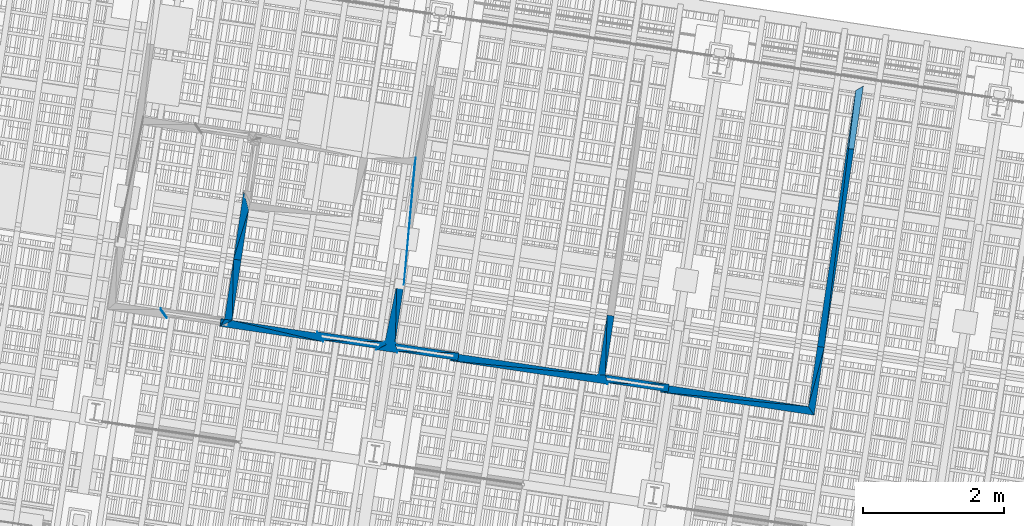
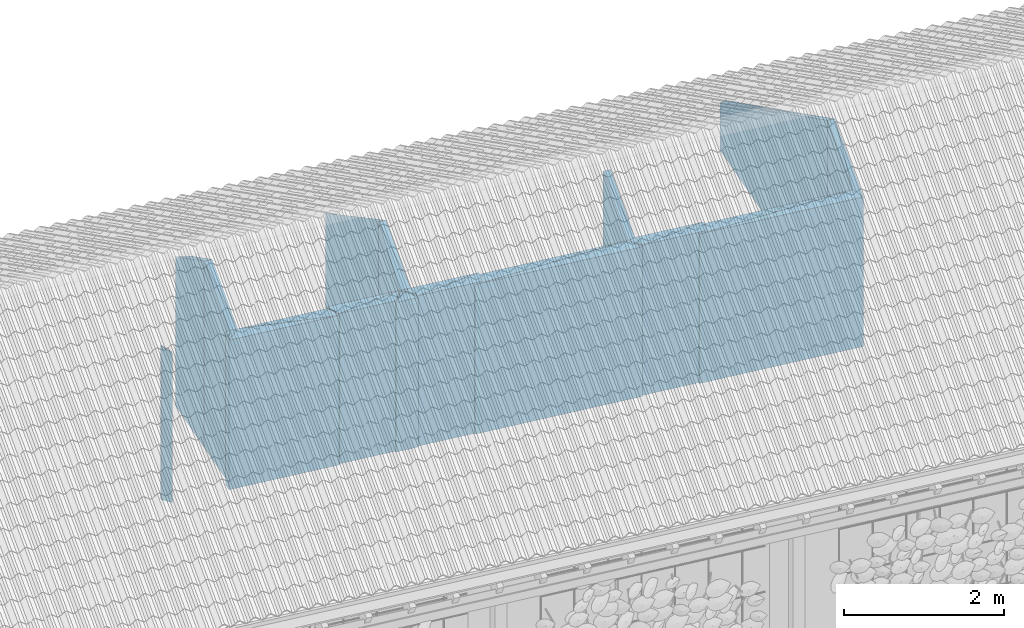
# One storey, part 124 of 131: 40 walls.
"""IFC4 building model written with IfcOpenShell, lengths in metres."""

import ifcopenshell
import ifcopenshell.guid

model = None  # the IFC model being written
_history = None  # IfcOwnerHistory: only IFC2X3 demands one
_inside = {}  # id of a spatial element -> (the spatial element, [elements in it])
_under = {}  # id of a project, library or spatial element -> (it, [spatial elements below it])
_declared = {}  # id of a project -> (the project, [libraries it declares])
_typed = {}  # id of a type object -> (the type object, [elements of that type])
_made_of = {}  # id of a material, layer set ... -> (it, [elements and type objects made of it])


def new_model(schema):
    """Start an empty IFC model of exactly this schema.

    Asked for "IFC4X3", IfcOpenShell would pick the latest addendum, in which some entities
    have other attributes; the version numbers below select the first issue.
    IFC2X3 requires an IfcOwnerHistory on every rooted entity: one is made here for all.
    """
    global model, _history
    if schema == "IFC4X3":
        model = ifcopenshell.file(schema_version=(4, 3, 0, 0))
    else:
        model = ifcopenshell.file(schema=schema)
    _inside.clear()
    _under.clear()
    _declared.clear()
    _typed.clear()
    _made_of.clear()
    _history = None
    if model.schema == "IFC2X3":
        org = make("IfcOrganization", Name="unknown")
        user = make(
            "IfcPersonAndOrganization",
            ThePerson=make("IfcPerson", FamilyName="unknown"),
            TheOrganization=org,
        )
        app = make(
            "IfcApplication",
            ApplicationDeveloper=org,
            Version="unknown",
            ApplicationFullName="unknown",
            ApplicationIdentifier="unknown",
        )
        _history = make(
            "IfcOwnerHistory",
            OwningUser=user,
            OwningApplication=app,
            ChangeAction="ADDED",
            CreationDate=0,
        )
    return model


def make(cls, **values):
    """One entity of the class cls with the attributes given. An attribute that is None is left unset."""
    return model.create_entity(
        cls, **{name: value for name, value in values.items() if value is not None}
    )


def rooted(cls, **values):
    """An entity with a GlobalId (a new one), such as an element, a storey or a relation."""
    return make(cls, GlobalId=ifcopenshell.guid.new(), OwnerHistory=_history, **values)


def si_unit(unit_type, name, prefix=None):
    """IfcSIUnit, for example si_unit("LENGTHUNIT", "METRE", prefix="MILLI")."""
    return make("IfcSIUnit", UnitType=unit_type, Prefix=prefix, Name=name)


def assignment(units):
    """IfcUnitAssignment: the units of a project."""
    return None if units is None else make("IfcUnitAssignment", Units=units)


def point(xyz):
    """IfcCartesianPoint."""
    return None if xyz is None else make("IfcCartesianPoint", Coordinates=xyz)


def direction(xyz):
    """IfcDirection."""
    return None if xyz is None else make("IfcDirection", DirectionRatios=xyz)


def frame(location, z_axis=None, x_axis=None):
    """IfcAxis2Placement3D, a coordinate frame: its origin and axes. An axis left out is left unset."""
    return make(
        "IfcAxis2Placement3D",
        Location=point(location),
        Axis=direction(z_axis),
        RefDirection=direction(x_axis),
    )


def origin_with_axes():
    """The frame at (0, 0, 0) with the z axis (0, 0, 1) and the x axis (1, 0, 0) written out."""
    return frame((0.0, 0.0, 0.0), z_axis=(0.0, 0.0, 1.0), x_axis=(1.0, 0.0, 0.0))


def place(relative_to, where):
    """IfcLocalPlacement: puts the frame where relative to a parent placement (None: the world)."""
    return make(
        "IfcLocalPlacement", PlacementRelTo=relative_to, RelativePlacement=where
    )


def context(
    kind, dimensions, precision=None, world=None, true_north=None, identifier=None
):
    """IfcGeometricRepresentationContext, for example the 3D "Model" context."""
    return make(
        "IfcGeometricRepresentationContext",
        ContextIdentifier=identifier,
        ContextType=kind,
        CoordinateSpaceDimension=dimensions,
        Precision=precision,
        WorldCoordinateSystem=world,
        TrueNorth=true_north,
    )


def subcontext(parent, identifier, kind, view, scale=None):
    """IfcGeometricRepresentationSubContext, for example "Body" below "Model"."""
    return make(
        "IfcGeometricRepresentationSubContext",
        ContextIdentifier=identifier,
        ContextType=kind,
        ParentContext=parent,
        TargetScale=scale,
        TargetView=view,
    )


def project(units=None, contexts=None):
    """IfcProject with its units and contexts."""
    return rooted(
        "IfcProject",
        Name="project",
        RepresentationContexts=contexts,
        UnitsInContext=assignment(units),
    )


def spatial(cls, under=None, at=None, **own):
    """A site, building, storey or space (cls), placed at a placement, below another one or the project."""
    s = rooted(cls, ObjectPlacement=at, **own)
    if under is not None:
        _under.setdefault(under.id(), (under, []))[1].append(s)
    return s


def point_list(points):
    """IfcCartesianPointList2D or 3D."""
    cls = (
        "IfcCartesianPointList2D" if len(points[0]) == 2 else "IfcCartesianPointList3D"
    )
    return make(cls, CoordList=points)


def polygons(points, faces, closed=None, point_numbers=None):
    """IfcPolygonalFaceSet: a face is its outer loop, then its inner loops; points numbered from 1."""
    made = []
    for loops in faces:
        if len(loops) == 1:
            made.append(make("IfcIndexedPolygonalFace", CoordIndex=loops[0]))
        else:
            made.append(
                make(
                    "IfcIndexedPolygonalFaceWithVoids",
                    CoordIndex=loops[0],
                    InnerCoordIndices=loops[1:],
                )
            )
    return make(
        "IfcPolygonalFaceSet",
        Coordinates=point_list(points),
        Closed=closed,
        Faces=made,
        PnIndex=point_numbers,
    )


def shape(context_of_items, identifier, shape_type, items):
    """IfcShapeRepresentation: the items that make up one representation, for example the "Body"."""
    return make(
        "IfcShapeRepresentation",
        ContextOfItems=context_of_items,
        RepresentationIdentifier=identifier,
        RepresentationType=shape_type,
        Items=items,
    )


def material(Name=None, Category=None):
    """IfcMaterial."""
    return make("IfcMaterial", Name=Name, Category=Category)


def made_of(thing, what):
    """Note that an element or type object is made of a material, layer set ...; save() writes the relation."""
    if what is not None:
        _made_of.setdefault(what.id(), (what, []))[1].append(thing)
    return thing


def element(
    cls,
    number,
    at=None,
    inside=None,
    cuts=None,
    type_object=None,
    material=None,
    context=None,
    identifier="Body",
    shape_type=None,
    held_by="IfcProductDefinitionShape",
    body=None,
    shapes=None,
    **own,
):
    """One element of the class cls, such as IfcWall. Its Tag is "e" and its number.

    at: its placement. inside: the storey or other place that contains it. cuts: it is an
    opening in that element (IfcRelVoidsElement). A single representation is given by context,
    identifier, shape_type and body (its items); several are given by shapes. held_by: the class
    of the entity that holds the representations. save() writes the other relations.
    """
    e = rooted(cls, Tag="e%d" % number, ObjectPlacement=at, **own)
    if body is not None:
        shapes = [shape(context, identifier, shape_type, body)]
    if shapes is not None:
        e.Representation = make(held_by, Representations=shapes)
    if inside is not None:
        _inside.setdefault(inside.id(), (inside, []))[1].append(e)
    if cuts is not None:
        rooted(
            "IfcRelVoidsElement", RelatingBuildingElement=cuts, RelatedOpeningElement=e
        )
    if type_object is not None:
        _typed.setdefault(type_object.id(), (type_object, []))[1].append(e)
    return made_of(e, material)


def aggregate(whole, parts):
    """IfcRelAggregates: a whole, such as a stair, and the parts it consists of."""
    return rooted("IfcRelAggregates", RelatingObject=whole, RelatedObjects=parts)


def save(model, path):
    """Write the relations noted so far, then the file.

    IfcRelAggregates (storeys below a building ...), IfcRelContainedInSpatialStructure (elements
    in a storey), IfcRelDefinesByType, IfcRelAssociatesMaterial and IfcRelDeclares: one each for
    every whole, place, type object, material and project.
    """
    for whole, parts in _under.values():
        aggregate(whole, parts)
    for where, things in _inside.values():
        rooted(
            "IfcRelContainedInSpatialStructure",
            RelatedElements=things,
            RelatingStructure=where,
        )
    for kind, things in _typed.values():
        rooted("IfcRelDefinesByType", RelatedObjects=things, RelatingType=kind)
    for what, things in _made_of.values():
        rooted("IfcRelAssociatesMaterial", RelatedObjects=things, RelatingMaterial=what)
    for by, libraries in _declared.values():
        rooted("IfcRelDeclares", RelatingContext=by, RelatedDefinitions=libraries)
    model.write(path)


model = new_model("IFC4")

# Units and contexts
model_context = context("Model", 3, precision=1e-05, world=origin_with_axes(), true_north=direction((0.0, 1.0)))
body_context = subcontext(model_context, "Body", "Model", "MODEL_VIEW")
ifc_project = project(units=[si_unit("VOLUMEUNIT", "CUBIC_METRE"), si_unit("LENGTHUNIT", "METRE"), si_unit("AREAUNIT", "SQUARE_METRE")], contexts=[model_context])

# Site, building, storey
site_placement = place(None, origin_with_axes())
site = spatial("IfcSite", under=ifc_project, at=site_placement, Name="Lares · Rua das Mercês · artigo 4771")
building_placement = place(site_placement, frame((15.0, 9.7, 15.8), z_axis=(0.0, 0.0, 1.0), x_axis=(0.989015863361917, -0.147809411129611, 0.0)))
building = spatial("IfcBuilding", under=site, at=building_placement, Name="Casa Sobreposta")
storey_placement = place(building_placement, origin_with_axes())
storey = spatial("IfcBuildingStorey", under=building, at=storey_placement, Name="00 · Habitação e estacionamento", Elevation=15.8)

# Walls
ifc_material = material(Name="OSB", Category="wood")
wall_1_placement = place(storey_placement, origin_with_axes())
element("IfcWall", 1, at=wall_1_placement, inside=storey, material=ifc_material, Name="Divisória · prolongamento até ao forro", context=body_context, shape_type="Tessellation", body=[
    polygons([(8.80999999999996, 1.57999999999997, 3.05), (8.80999999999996, 1.60006813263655, 3.05), (8.70456930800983, 1.68999999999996, 3.05), (8.80999999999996, 1.57999999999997, 5.32917893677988), (8.80999999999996, 1.60006813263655, 5.34076527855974), (8.70456930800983, 1.68999999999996, 5.39268746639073)], [[[3, 2, 1]], [[4, 5, 6]], [[1, 2, 5, 4]], [[2, 3, 6, 5]], [[3, 1, 4, 6]]]),
])
wall_2_placement = place(storey_placement, origin_with_axes())
element("IfcWall", 2, at=wall_2_placement, inside=storey, material=ifc_material, Name="Divisória · prolongamento até ao forro", context=body_context, shape_type="Tessellation", body=[
    polygons([(8.70457262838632, 1.71008556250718, 3.05), (8.70456930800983, 1.68999999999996, 3.05), (8.80999999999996, 1.60006813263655, 3.05), (8.70457262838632, 1.71008556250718, 5.4042838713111), (8.70456930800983, 1.68999999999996, 5.39268746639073), (8.80999999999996, 1.60006813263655, 5.34076527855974)], [[[3, 2, 1]], [[4, 5, 6]], [[1, 2, 5, 4]], [[2, 3, 6, 5]], [[3, 1, 4, 6]]]),
])
wall_3_placement = place(storey_placement, origin_with_axes())
element("IfcWall", 3, at=wall_3_placement, inside=storey, material=ifc_material, Name="Divisória · prolongamento até ao forro", context=body_context, shape_type="Tessellation", body=[
    polygons([(9.61999999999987, 2.55, 3.05), (9.61999999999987, 1.68999999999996, 3.05), (9.72999999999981, 1.68999999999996, 3.05), (9.61999999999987, 2.55, 5.88920869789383), (9.61999999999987, 1.68999999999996, 5.39268746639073), (9.72999999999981, 1.68999999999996, 5.39268746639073)], [[[3, 2, 1]], [[4, 5, 6]], [[1, 2, 5, 4]], [[2, 3, 6, 5]], [[3, 1, 4, 6]]]),
])
wall_4_placement = place(storey_placement, origin_with_axes())
element("IfcWall", 4, at=wall_4_placement, inside=storey, material=ifc_material, Name="Divisória · prolongamento até ao forro", context=body_context, shape_type="Tessellation", body=[
    polygons([(9.61999999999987, 2.55, 3.05), (9.72999999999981, 1.68999999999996, 3.05), (9.72999999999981, 2.55, 3.05), (9.61999999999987, 2.55, 5.88920869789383), (9.72999999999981, 1.68999999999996, 5.39268746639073), (9.72999999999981, 2.55, 5.88920869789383)], [[[3, 2, 1]], [[4, 5, 6]], [[1, 2, 5, 4]], [[2, 3, 6, 5]], [[3, 1, 4, 6]]]),
])
wall_5_placement = place(storey_placement, origin_with_axes())
element("IfcWall", 5, at=wall_5_placement, inside=storey, material=ifc_material, Name="Divisória · prolongamento até ao forro", context=body_context, shape_type="Tessellation", body=[
    polygons([(11.96, 2.55, 3.05), (11.9147422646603, 1.70994155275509, 3.05), (12.06, 1.70993390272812, 3.05), (11.96, 2.55, 5.88920869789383), (11.9147422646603, 1.70994155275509, 5.40420072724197), (12.06, 1.70993390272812, 5.40419631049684)], [[[3, 2, 1]], [[4, 5, 6]], [[1, 2, 5, 4]], [[2, 3, 6, 5]], [[3, 1, 4, 6]]]),
])
wall_6_placement = place(storey_placement, origin_with_axes())
element("IfcWall", 6, at=wall_6_placement, inside=storey, material=ifc_material, Name="Divisória · prolongamento até ao forro", context=body_context, shape_type="Tessellation", body=[
    polygons([(11.96, 2.55, 3.05), (12.06, 1.70993390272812, 3.05), (12.06, 2.55, 3.05), (11.96, 2.55, 5.88920869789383), (12.06, 1.70993390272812, 5.40419631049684), (12.06, 2.55, 5.88920869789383)], [[[3, 2, 1]], [[4, 5, 6]], [[1, 2, 5, 4]], [[2, 3, 6, 5]], [[3, 1, 4, 6]]]),
])
wall_7_placement = place(storey_placement, origin_with_axes())
element("IfcWall", 7, at=wall_7_placement, inside=storey, material=ifc_material, Name="Divisória · prolongamento até ao forro", context=body_context, shape_type="Tessellation", body=[
    polygons([(12.9746138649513, 1.7100856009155, 3.05), (12.06, 1.70993390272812, 3.05), (12.1099999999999, 1.59994219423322, 3.05), (12.9746138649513, 1.7100856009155, 5.40428389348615), (12.06, 1.70993390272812, 5.40419631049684), (12.1099999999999, 1.59994219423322, 5.34069256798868)], [[[3, 2, 1]], [[4, 5, 6]], [[1, 2, 5, 4]], [[2, 3, 6, 5]], [[3, 1, 4, 6]]]),
])
wall_8_placement = place(storey_placement, origin_with_axes())
element("IfcWall", 8, at=wall_8_placement, inside=storey, material=ifc_material, Name="Divisória · prolongamento até ao forro", context=body_context, shape_type="Tessellation", body=[
    polygons([(12.9746138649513, 1.7100856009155, 3.05), (12.1099999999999, 1.59994219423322, 3.05), (12.974632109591, 1.60008560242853, 3.05), (12.9746138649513, 1.7100856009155, 5.40428389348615), (12.1099999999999, 1.59994219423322, 5.34069256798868), (12.974632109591, 1.60008560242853, 5.34077536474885)], [[[3, 2, 1]], [[4, 5, 6]], [[1, 2, 5, 4]], [[2, 3, 6, 5]], [[3, 1, 4, 6]]]),
])
wall_9_placement = place(storey_placement, origin_with_axes())
element("IfcWall", 9, at=wall_9_placement, inside=storey, material=ifc_material, Name="Divisória · prolongamento até ao forro", context=body_context, shape_type="Tessellation", body=[
    polygons([(12.1099999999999, 1.57999999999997, 3.05), (12.1099999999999, 1.59994219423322, 3.05), (11.96, 1.68999999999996, 3.05), (12.1099999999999, 1.57999999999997, 5.32917893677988), (12.1099999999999, 1.59994219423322, 5.34069256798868), (11.96, 1.68999999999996, 5.39268746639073)], [[[3, 2, 1]], [[4, 5, 6]], [[1, 2, 5, 4]], [[2, 3, 6, 5]], [[3, 1, 4, 6]]]),
])
wall_10_placement = place(storey_placement, origin_with_axes())
element("IfcWall", 10, at=wall_10_placement, inside=storey, material=ifc_material, Name="Divisória · prolongamento até ao forro", context=body_context, shape_type="Tessellation", body=[
    polygons([(12.1099999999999, 1.57999999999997, 3.05), (11.96, 1.68999999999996, 3.05), (11.8099999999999, 1.57999999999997, 3.05), (12.1099999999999, 1.57999999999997, 5.32917893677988), (11.96, 1.68999999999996, 5.39268746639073), (11.8099999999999, 1.57999999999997, 5.32917893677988)], [[[3, 2, 1]], [[4, 5, 6]], [[1, 2, 5, 4]], [[2, 3, 6, 5]], [[3, 1, 4, 6]]]),
])
wall_11_placement = place(storey_placement, origin_with_axes())
element("IfcWall", 11, at=wall_11_placement, inside=storey, material=ifc_material, Name="Divisória · prolongamento até ao forro", context=body_context, shape_type="Tessellation", body=[
    polygons([(11.8099999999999, 1.57999999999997, 3.05), (11.96, 1.68999999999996, 3.05), (11.9147393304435, 1.68999999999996, 3.05), (11.8099999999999, 1.57999999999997, 5.32917893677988), (11.96, 1.68999999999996, 5.39268746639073), (11.9147393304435, 1.68999999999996, 5.39268746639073)], [[[3, 2, 1]], [[4, 5, 6]], [[1, 2, 5, 4]], [[2, 3, 6, 5]], [[3, 1, 4, 6]]]),
])
wall_12_placement = place(storey_placement, origin_with_axes())
element("IfcWall", 12, at=wall_12_placement, inside=storey, material=ifc_material, Name="Divisória · prolongamento até ao forro", context=body_context, shape_type="Tessellation", body=[
    polygons([(11.8099999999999, 1.57999999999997, 3.05), (11.9147393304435, 1.68999999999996, 3.05), (11.8099999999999, 1.59995696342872, 3.05), (11.8099999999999, 1.57999999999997, 5.32917893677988), (11.9147393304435, 1.68999999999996, 5.39268746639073), (11.8099999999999, 1.59995696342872, 5.34070109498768)], [[[3, 2, 1]], [[4, 5, 6]], [[1, 2, 5, 4]], [[2, 3, 6, 5]], [[3, 1, 4, 6]]]),
])
wall_13_placement = place(storey_placement, origin_with_axes())
element("IfcWall", 13, at=wall_13_placement, inside=storey, material=ifc_material, Name="Divisória · prolongamento até ao forro", context=body_context, shape_type="Tessellation", body=[
    polygons([(11.05, 1.57999999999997, 3.05), (11.05, 1.60006879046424, 3.05), (10.9446622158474, 1.68999999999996, 3.05), (11.05, 1.57999999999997, 5.32917893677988), (11.05, 1.60006879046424, 5.34076565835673), (10.9446622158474, 1.68999999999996, 5.39268746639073)], [[[3, 2, 1]], [[4, 5, 6]], [[1, 2, 5, 4]], [[2, 3, 6, 5]], [[3, 1, 4, 6]]]),
])
wall_14_placement = place(storey_placement, origin_with_axes())
element("IfcWall", 14, at=wall_14_placement, inside=storey, material=ifc_material, Name="Divisória · prolongamento até ao forro", context=body_context, shape_type="Tessellation", body=[
    polygons([(11.05, 1.57999999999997, 3.05), (10.9446622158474, 1.68999999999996, 3.05), (9.72999999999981, 1.68999999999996, 3.05), (11.05, 1.57999999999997, 5.32917893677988), (10.9446622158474, 1.68999999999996, 5.39268746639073), (9.72999999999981, 1.68999999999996, 5.39268746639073)], [[[3, 2, 1]], [[4, 5, 6]], [[1, 2, 5, 4]], [[2, 3, 6, 5]], [[3, 1, 4, 6]]]),
])
wall_15_placement = place(storey_placement, origin_with_axes())
element("IfcWall", 15, at=wall_15_placement, inside=storey, material=ifc_material, Name="Divisória · prolongamento até ao forro", context=body_context, shape_type="Tessellation", body=[
    polygons([(11.05, 1.57999999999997, 3.05), (9.72999999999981, 1.68999999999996, 3.05), (9.56999999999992, 1.57999999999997, 3.05), (11.05, 1.57999999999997, 5.32917893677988), (9.72999999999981, 1.68999999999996, 5.39268746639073), (9.56999999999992, 1.57999999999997, 5.32917893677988)], [[[3, 2, 1]], [[4, 5, 6]], [[1, 2, 5, 4]], [[2, 3, 6, 5]], [[3, 1, 4, 6]]]),
])
wall_16_placement = place(storey_placement, origin_with_axes())
element("IfcWall", 16, at=wall_16_placement, inside=storey, material=ifc_material, Name="Divisória · prolongamento até ao forro", context=body_context, shape_type="Tessellation", body=[
    polygons([(9.56999999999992, 1.57999999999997, 3.05), (9.72999999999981, 1.68999999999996, 3.05), (9.61999999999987, 1.68999999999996, 3.05), (9.56999999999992, 1.57999999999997, 5.32917893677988), (9.72999999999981, 1.68999999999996, 5.39268746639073), (9.61999999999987, 1.68999999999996, 5.39268746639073)], [[[3, 2, 1]], [[4, 5, 6]], [[1, 2, 5, 4]], [[2, 3, 6, 5]], [[3, 1, 4, 6]]]),
])
wall_17_placement = place(storey_placement, origin_with_axes())
element("IfcWall", 17, at=wall_17_placement, inside=storey, material=ifc_material, Name="Divisória · prolongamento até ao forro", context=body_context, shape_type="Tessellation", body=[
    polygons([(9.56999999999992, 1.57999999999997, 3.05), (9.61999999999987, 1.68999999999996, 3.05), (9.56999999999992, 1.68999999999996, 3.05), (9.56999999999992, 1.57999999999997, 5.32917893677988), (9.61999999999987, 1.68999999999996, 5.39268746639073), (9.56999999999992, 1.68999999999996, 5.39268746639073)], [[[3, 2, 1]], [[4, 5, 6]], [[1, 2, 5, 4]], [[2, 3, 6, 5]], [[3, 1, 4, 6]]]),
])
wall_18_placement = place(storey_placement, origin_with_axes())
element("IfcWall", 18, at=wall_18_placement, inside=storey, material=ifc_material, Name="Divisória · prolongamento até ao forro", context=body_context, shape_type="Tessellation", body=[
    polygons([(10.9446651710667, 1.71008429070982, 3.05), (10.9446622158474, 1.68999999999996, 3.05), (11.05, 1.60006879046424, 3.05), (10.9446651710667, 1.71008429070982, 5.40428313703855), (10.9446622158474, 1.68999999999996, 5.39268746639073), (11.05, 1.60006879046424, 5.34076565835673)], [[[3, 2, 1]], [[4, 5, 6]], [[1, 2, 5, 4]], [[2, 3, 6, 5]], [[3, 1, 4, 6]]]),
])
wall_19_placement = place(storey_placement, origin_with_axes())
element("IfcWall", 19, at=wall_19_placement, inside=storey, material=ifc_material, Name="Divisória · prolongamento até ao forro", context=body_context, shape_type="Tessellation", body=[
    polygons([(10.9446651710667, 1.71008429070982, 3.05), (11.05, 1.60006879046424, 3.05), (11.9147422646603, 1.70994155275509, 3.05), (10.9446651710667, 1.71008429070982, 5.40428313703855), (11.05, 1.60006879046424, 5.34076565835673), (11.9147422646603, 1.70994155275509, 5.40420072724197)], [[[3, 2, 1]], [[4, 5, 6]], [[1, 2, 5, 4]], [[2, 3, 6, 5]], [[3, 1, 4, 6]]]),
])
wall_20_placement = place(storey_placement, origin_with_axes())
element("IfcWall", 20, at=wall_20_placement, inside=storey, material=ifc_material, Name="Divisória · prolongamento até ao forro", context=body_context, shape_type="Tessellation", body=[
    polygons([(11.9147422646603, 1.70994155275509, 3.05), (11.05, 1.60006879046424, 3.05), (11.8099999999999, 1.59995696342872, 3.05), (11.9147422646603, 1.70994155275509, 5.40420072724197), (11.05, 1.60006879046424, 5.34076565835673), (11.8099999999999, 1.59995696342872, 5.34070109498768)], [[[3, 2, 1]], [[4, 5, 6]], [[1, 2, 5, 4]], [[2, 3, 6, 5]], [[3, 1, 4, 6]]]),
])
wall_21_placement = place(storey_placement, origin_with_axes())
element("IfcWall", 21, at=wall_21_placement, inside=storey, material=ifc_material, Name="Divisória · prolongamento até ao forro", context=body_context, shape_type="Tessellation", body=[
    polygons([(11.9147422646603, 1.70994155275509, 3.05), (11.8099999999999, 1.59995696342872, 3.05), (11.9147393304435, 1.68999999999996, 3.05), (11.9147422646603, 1.70994155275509, 5.40420072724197), (11.8099999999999, 1.59995696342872, 5.34070109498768), (11.9147393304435, 1.68999999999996, 5.39268746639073)], [[[3, 2, 1]], [[4, 5, 6]], [[1, 2, 5, 4]], [[2, 3, 6, 5]], [[3, 1, 4, 6]]]),
])
wall_22_placement = place(storey_placement, origin_with_axes())
element("IfcWall", 22, at=wall_22_placement, inside=storey, material=ifc_material, Name="Divisória · prolongamento até ao forro", context=body_context, shape_type="Tessellation", body=[
    polygons([(11.9147422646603, 1.70994155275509, 3.05), (11.96, 1.68999999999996, 3.05), (12.06, 1.70993390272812, 3.05), (11.9147422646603, 1.70994155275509, 5.40420072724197), (11.96, 1.68999999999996, 5.39268746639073), (12.06, 1.70993390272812, 5.40419631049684)], [[[3, 2, 1]], [[4, 5, 6]], [[1, 2, 5, 4]], [[2, 3, 6, 5]], [[3, 1, 4, 6]]]),
])
wall_23_placement = place(storey_placement, origin_with_axes())
element("IfcWall", 23, at=wall_23_placement, inside=storey, material=ifc_material, Name="Divisória · prolongamento até ao forro", context=body_context, shape_type="Tessellation", body=[
    polygons([(12.06, 1.70993390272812, 3.05), (11.96, 1.68999999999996, 3.05), (12.1099999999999, 1.59994219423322, 3.05), (12.06, 1.70993390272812, 5.40419631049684), (11.96, 1.68999999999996, 5.39268746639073), (12.1099999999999, 1.59994219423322, 5.34069256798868)], [[[3, 2, 1]], [[4, 5, 6]], [[1, 2, 5, 4]], [[2, 3, 6, 5]], [[3, 1, 4, 6]]]),
])
wall_24_placement = place(storey_placement, origin_with_axes())
element("IfcWall", 24, at=wall_24_placement, inside=storey, material=ifc_material, Name="Divisória · prolongamento até ao forro", context=body_context, shape_type="Tessellation", body=[
    polygons([(12.06, 2.55, 3.05), (11.96, 4.35299999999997, 3.05), (11.96, 4.24299999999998, 3.05), (12.06, 2.55, 5.88920869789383), (11.96, 4.35299999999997, 4.84824616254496), (11.96, 4.24299999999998, 4.91175469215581)], [[[3, 2, 1]], [[4, 5, 6]], [[1, 2, 5, 4]], [[2, 3, 6, 5]], [[3, 1, 4, 6]]]),
])
wall_25_placement = place(storey_placement, origin_with_axes())
element("IfcWall", 25, at=wall_25_placement, inside=storey, material=ifc_material, Name="Divisória · prolongamento até ao forro", context=body_context, shape_type="Tessellation", body=[
    polygons([(9.72999999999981, 2.55, 3.05), (9.72999999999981, 3.27300000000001, 3.05), (9.61999999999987, 2.55, 3.05), (9.72999999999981, 2.55, 5.88920869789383), (9.72999999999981, 3.27300000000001, 5.47178445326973), (9.61999999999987, 2.55, 5.88920869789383)], [[[3, 2, 1]], [[4, 5, 6]], [[1, 2, 5, 4]], [[2, 3, 6, 5]], [[3, 1, 4, 6]]]),
])
wall_26_placement = place(storey_placement, origin_with_axes())
element("IfcWall", 26, at=wall_26_placement, inside=storey, material=ifc_material, Name="Divisória · prolongamento até ao forro", context=body_context, shape_type="Tessellation", body=[
    polygons([(9.61999999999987, 2.55, 3.05), (9.72999999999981, 3.27300000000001, 3.05), (9.61999999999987, 3.53299999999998, 3.05), (9.61999999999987, 2.55, 5.88920869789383), (9.72999999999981, 3.27300000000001, 5.47178445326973), (9.61999999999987, 3.53299999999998, 5.32167338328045)], [[[3, 2, 1]], [[4, 5, 6]], [[1, 2, 5, 4]], [[2, 3, 6, 5]], [[3, 1, 4, 6]]]),
])
wall_27_placement = place(storey_placement, origin_with_axes())
element("IfcWall", 27, at=wall_27_placement, inside=storey, material=ifc_material, Name="Divisória · prolongamento até ao forro", context=body_context, shape_type="Tessellation", body=[
    polygons([(12.8699999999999, 1.68999999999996, 3.05), (12.8699999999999, 1.57999999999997, 3.05), (14.97, 1.68999999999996, 3.05), (12.8699999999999, 1.68999999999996, 5.39268746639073), (12.8699999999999, 1.57999999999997, 5.32917893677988), (14.97, 1.68999999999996, 5.39268746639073)], [[[3, 2, 1]], [[4, 5, 6]], [[1, 2, 5, 4]], [[2, 3, 6, 5]], [[3, 1, 4, 6]]]),
])
wall_28_placement = place(storey_placement, origin_with_axes())
element("IfcWall", 28, at=wall_28_placement, inside=storey, material=ifc_material, Name="Divisória · prolongamento até ao forro", context=body_context, shape_type="Tessellation", body=[
    polygons([(14.97, 2.55, 3.05), (14.97, 1.68999999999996, 3.05), (15.07, 1.70993390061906, 3.05), (14.97, 2.55, 5.88920869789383), (14.97, 1.68999999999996, 5.39268746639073), (15.07, 1.70993390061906, 5.40419630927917)], [[[3, 2, 1]], [[4, 5, 6]], [[1, 2, 5, 4]], [[2, 3, 6, 5]], [[3, 1, 4, 6]]]),
])
wall_29_placement = place(storey_placement, origin_with_axes())
element("IfcWall", 29, at=wall_29_placement, inside=storey, material=ifc_material, Name="Divisória · prolongamento até ao forro", context=body_context, shape_type="Tessellation", body=[
    polygons([(14.97, 2.55, 3.05), (15.07, 1.70993390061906, 3.05), (15.07, 2.55, 3.05), (14.97, 2.55, 5.88920869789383), (15.07, 1.70993390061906, 5.40419630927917), (15.07, 2.55, 5.88920869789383)], [[[3, 2, 1]], [[4, 5, 6]], [[1, 2, 5, 4]], [[2, 3, 6, 5]], [[3, 1, 4, 6]]]),
])
wall_30_placement = place(storey_placement, origin_with_axes())
element("IfcWall", 30, at=wall_30_placement, inside=storey, material=ifc_material, Name="Divisória · prolongamento até ao forro", context=body_context, shape_type="Tessellation", body=[
    polygons([(15.9846265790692, 1.71008560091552, 3.05), (15.07, 1.70993390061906, 3.05), (15.1199999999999, 1.59994219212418, 3.05), (15.9846265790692, 1.71008560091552, 5.40428389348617), (15.07, 1.70993390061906, 5.40419630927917), (15.1199999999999, 1.59994219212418, 5.34069256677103)], [[[3, 2, 1]], [[4, 5, 6]], [[1, 2, 5, 4]], [[2, 3, 6, 5]], [[3, 1, 4, 6]]]),
])
wall_31_placement = place(storey_placement, origin_with_axes())
element("IfcWall", 31, at=wall_31_placement, inside=storey, material=ifc_material, Name="Divisória · prolongamento até ao forro", context=body_context, shape_type="Tessellation", body=[
    polygons([(15.9846265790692, 1.71008560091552, 3.05), (15.1199999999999, 1.59994219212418, 3.05), (15.9846448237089, 1.60008560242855, 3.05), (15.9846265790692, 1.71008560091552, 5.40428389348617), (15.1199999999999, 1.59994219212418, 5.34069256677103), (15.9846448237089, 1.60008560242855, 5.34077536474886)], [[[3, 2, 1]], [[4, 5, 6]], [[1, 2, 5, 4]], [[2, 3, 6, 5]], [[3, 1, 4, 6]]]),
])
wall_32_placement = place(storey_placement, origin_with_axes())
element("IfcWall", 32, at=wall_32_placement, inside=storey, material=ifc_material, Name="Divisória · prolongamento até ao forro", context=body_context, shape_type="Tessellation", body=[
    polygons([(15.1199999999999, 1.57999999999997, 3.05), (15.1199999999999, 1.59994219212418, 3.05), (14.97, 1.68999999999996, 3.05), (15.1199999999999, 1.57999999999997, 5.32917893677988), (15.1199999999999, 1.59994219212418, 5.34069256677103), (14.97, 1.68999999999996, 5.39268746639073)], [[[3, 2, 1]], [[4, 5, 6]], [[1, 2, 5, 4]], [[2, 3, 6, 5]], [[3, 1, 4, 6]]]),
])
wall_33_placement = place(storey_placement, origin_with_axes())
element("IfcWall", 33, at=wall_33_placement, inside=storey, material=ifc_material, Name="Divisória · prolongamento até ao forro", context=body_context, shape_type="Tessellation", body=[
    polygons([(15.1199999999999, 1.57999999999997, 3.05), (14.97, 1.68999999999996, 3.05), (12.8699999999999, 1.57999999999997, 3.05), (15.1199999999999, 1.57999999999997, 5.32917893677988), (14.97, 1.68999999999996, 5.39268746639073), (12.8699999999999, 1.57999999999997, 5.32917893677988)], [[[3, 2, 1]], [[4, 5, 6]], [[1, 2, 5, 4]], [[2, 3, 6, 5]], [[3, 1, 4, 6]]]),
])
wall_34_placement = place(storey_placement, origin_with_axes())
element("IfcWall", 34, at=wall_34_placement, inside=storey, material=ifc_material, Name="Divisória · prolongamento até ao forro", context=body_context, shape_type="Tessellation", body=[
    polygons([(14.97, 1.68999999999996, 3.05), (15.1199999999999, 1.59994219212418, 3.05), (15.07, 1.70993390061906, 3.05), (14.97, 1.68999999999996, 5.39268746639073), (15.1199999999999, 1.59994219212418, 5.34069256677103), (15.07, 1.70993390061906, 5.40419630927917)], [[[3, 2, 1]], [[4, 5, 6]], [[1, 2, 5, 4]], [[2, 3, 6, 5]], [[3, 1, 4, 6]]]),
])
wall_35_placement = place(storey_placement, origin_with_axes())
element("IfcWall", 35, at=wall_35_placement, inside=storey, material=ifc_material, Name="Divisória · prolongamento até ao forro", context=body_context, shape_type="Tessellation", body=[
    polygons([(15.8799999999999, 1.68999999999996, 3.05), (15.8799999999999, 1.57999999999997, 3.05), (17.98, 1.68999999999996, 3.05), (15.8799999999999, 1.68999999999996, 5.39268746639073), (15.8799999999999, 1.57999999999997, 5.32917893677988), (17.98, 1.68999999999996, 5.39268746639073)], [[[3, 2, 1]], [[4, 5, 6]], [[1, 2, 5, 4]], [[2, 3, 6, 5]], [[3, 1, 4, 6]]]),
])
wall_36_placement = place(storey_placement, origin_with_axes())
element("IfcWall", 36, at=wall_36_placement, inside=storey, material=ifc_material, Name="Divisória · prolongamento até ao forro", context=body_context, shape_type="Tessellation", body=[
    polygons([(17.98, 2.55, 3.05), (17.98, 1.68999999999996, 3.05), (18.0799999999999, 2.55, 3.05), (17.98, 2.55, 5.88920869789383), (17.98, 1.68999999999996, 5.39268746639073), (18.0799999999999, 2.55, 5.88920869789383)], [[[3, 2, 1]], [[4, 5, 6]], [[1, 2, 5, 4]], [[2, 3, 6, 5]], [[3, 1, 4, 6]]]),
])
wall_37_placement = place(storey_placement, origin_with_axes())
element("IfcWall", 37, at=wall_37_placement, inside=storey, material=ifc_material, Name="Divisória · prolongamento até ao forro", context=body_context, shape_type="Tessellation", body=[
    polygons([(18.0799999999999, 2.55, 3.05), (17.98, 1.68999999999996, 3.05), (18.0799999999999, 1.57999999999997, 3.05), (18.0799999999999, 2.55, 5.88920869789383), (17.98, 1.68999999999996, 5.39268746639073), (18.0799999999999, 1.57999999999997, 5.32917893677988)], [[[3, 2, 1]], [[4, 5, 6]], [[1, 2, 5, 4]], [[2, 3, 6, 5]], [[3, 1, 4, 6]]]),
])
wall_38_placement = place(storey_placement, origin_with_axes())
element("IfcWall", 38, at=wall_38_placement, inside=storey, material=ifc_material, Name="Divisória · prolongamento até ao forro", context=body_context, shape_type="Tessellation", body=[
    polygons([(18.0799999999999, 1.57999999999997, 3.05), (17.98, 1.68999999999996, 3.05), (15.8799999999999, 1.57999999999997, 3.05), (18.0799999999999, 1.57999999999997, 5.32917893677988), (17.98, 1.68999999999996, 5.39268746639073), (15.8799999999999, 1.57999999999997, 5.32917893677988)], [[[3, 2, 1]], [[4, 5, 6]], [[1, 2, 5, 4]], [[2, 3, 6, 5]], [[3, 1, 4, 6]]]),
])
wall_39_placement = place(storey_placement, origin_with_axes())
element("IfcWall", 39, at=wall_39_placement, inside=storey, material=ifc_material, Name="Divisória · prolongamento até ao forro", context=body_context, shape_type="Tessellation", body=[
    polygons([(17.98, 6.21236749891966, 3.05), (17.98, 2.55, 3.05), (18.0799999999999, 2.55, 3.05), (17.98, 6.21236749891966, 3.77473983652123), (17.98, 2.55, 5.88920869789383), (18.0799999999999, 2.55, 5.88920869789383)], [[[3, 2, 1]], [[4, 5, 6]], [[1, 2, 5, 4]], [[2, 3, 6, 5]], [[3, 1, 4, 6]]]),
])
wall_40_placement = place(storey_placement, origin_with_axes())
element("IfcWall", 40, at=wall_40_placement, inside=storey, material=ifc_material, Name="Divisória · prolongamento até ao forro", context=body_context, shape_type="Tessellation", body=[
    polygons([(17.98, 6.21236749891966, 3.05), (18.0799999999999, 2.55, 3.05), (18.0799999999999, 6.29570083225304, 3.05), (17.98, 6.21236749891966, 3.77473983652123), (18.0799999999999, 2.55, 5.88920869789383), (18.0799999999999, 6.29570083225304, 3.72662731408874)], [[[3, 2, 1]], [[4, 5, 6]], [[1, 2, 5, 4]], [[2, 3, 6, 5]], [[3, 1, 4, 6]]]),
])

save(model, "model.ifc")
